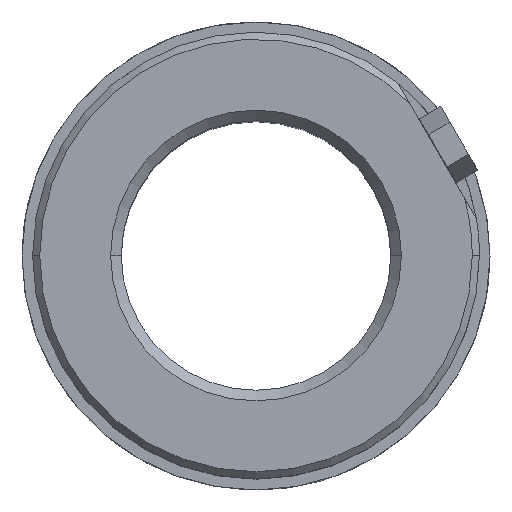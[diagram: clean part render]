
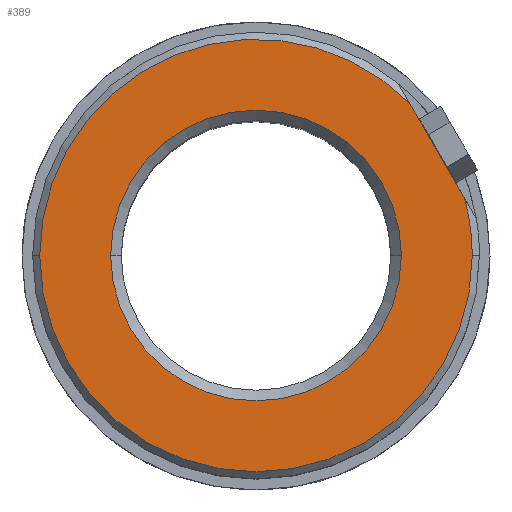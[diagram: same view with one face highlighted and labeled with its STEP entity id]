
A CAD part, top view. The second image highlights one B-rep face of the part: STEP entity #389.
In plain terms, the highlighted planar face has unit normal (0, 0, 1).
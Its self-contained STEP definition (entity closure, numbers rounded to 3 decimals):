
#262=CARTESIAN_POINT('Axis2P3D Location',(0.,0.,45.)) ;
#266=CARTESIAN_POINT('Vertex',(20.5,0.,45.)) ;
#268=CARTESIAN_POINT('Vertex',(-20.5,0.,45.)) ;
#341=CARTESIAN_POINT('Axis2P3D Location',(20.5,0.,45.)) ;
#346=CARTESIAN_POINT('Line Origine',(25.548,14.75,45.)) ;
#350=CARTESIAN_POINT('Vertex',(29.421,8.042,45.)) ;
#352=CARTESIAN_POINT('Vertex',(21.675,21.458,45.)) ;
#355=CARTESIAN_POINT('Axis2P3D Location',(0.,0.,45.)) ;
#359=CARTESIAN_POINT('Vertex',(-30.5,0.,45.)) ;
#362=CARTESIAN_POINT('Axis2P3D Location',(0.,0.,45.)) ;
#366=CARTESIAN_POINT('Vertex',(30.5,0.,45.)) ;
#369=CARTESIAN_POINT('Axis2P3D Location',(0.,0.,45.)) ;
#380=CARTESIAN_POINT('Axis2P3D Location',(0.,0.,45.)) ;
#263=DIRECTION('Axis2P3D Direction',(0.,-0.,1.)) ;
#342=DIRECTION('Axis2P3D Direction',(0.,-0.,1.)) ;
#343=DIRECTION('Axis2P3D XDirection',(1.,0.,0.)) ;
#347=DIRECTION('Vector Direction',(-0.5,0.866,0.)) ;
#356=DIRECTION('Axis2P3D Direction',(0.,-0.,1.)) ;
#363=DIRECTION('Axis2P3D Direction',(0.,-0.,1.)) ;
#370=DIRECTION('Axis2P3D Direction',(0.,-0.,1.)) ;
#381=DIRECTION('Axis2P3D Direction',(0.,-0.,1.)) ;
#264=AXIS2_PLACEMENT_3D('Circle Axis2P3D',#262,#263,$) ;
#344=AXIS2_PLACEMENT_3D('Plane Axis2P3D',#341,#342,#343) ;
#357=AXIS2_PLACEMENT_3D('Circle Axis2P3D',#355,#356,$) ;
#364=AXIS2_PLACEMENT_3D('Circle Axis2P3D',#362,#363,$) ;
#371=AXIS2_PLACEMENT_3D('Circle Axis2P3D',#369,#370,$) ;
#382=AXIS2_PLACEMENT_3D('Circle Axis2P3D',#380,#381,$) ;
#375=ORIENTED_EDGE('',*,*,#354,.T.) ;
#376=ORIENTED_EDGE('',*,*,#361,.T.) ;
#377=ORIENTED_EDGE('',*,*,#368,.T.) ;
#378=ORIENTED_EDGE('',*,*,#373,.T.) ;
#386=ORIENTED_EDGE('',*,*,#384,.F.) ;
#387=ORIENTED_EDGE('',*,*,#270,.F.) ;
#388=FACE_BOUND('',#385,.T.) ;
#348=VECTOR('Line Direction',#347,1.) ;
#389=ADVANCED_FACE('741-38',(#379,#388),#345,.T.) ;
#265=CIRCLE('generated circle',#264,20.5) ;
#358=CIRCLE('generated circle',#357,30.5) ;
#365=CIRCLE('generated circle',#364,30.5) ;
#372=CIRCLE('generated circle',#371,30.5) ;
#383=CIRCLE('generated circle',#382,20.5) ;
#270=EDGE_CURVE('',#267,#269,#265,.T.) ;
#354=EDGE_CURVE('',#351,#353,#349,.T.) ;
#361=EDGE_CURVE('',#353,#360,#358,.T.) ;
#368=EDGE_CURVE('',#360,#367,#365,.T.) ;
#373=EDGE_CURVE('',#367,#351,#372,.T.) ;
#384=EDGE_CURVE('',#269,#267,#383,.T.) ;
#374=EDGE_LOOP('',(#375,#376,#377,#378)) ;
#385=EDGE_LOOP('',(#386,#387)) ;
#379=FACE_OUTER_BOUND('',#374,.T.) ;
#349=LINE('Line',#346,#348) ;
#345=PLANE('Plane',#344) ;
#267=VERTEX_POINT('',#266) ;
#269=VERTEX_POINT('',#268) ;
#351=VERTEX_POINT('',#350) ;
#353=VERTEX_POINT('',#352) ;
#360=VERTEX_POINT('',#359) ;
#367=VERTEX_POINT('',#366) ;
